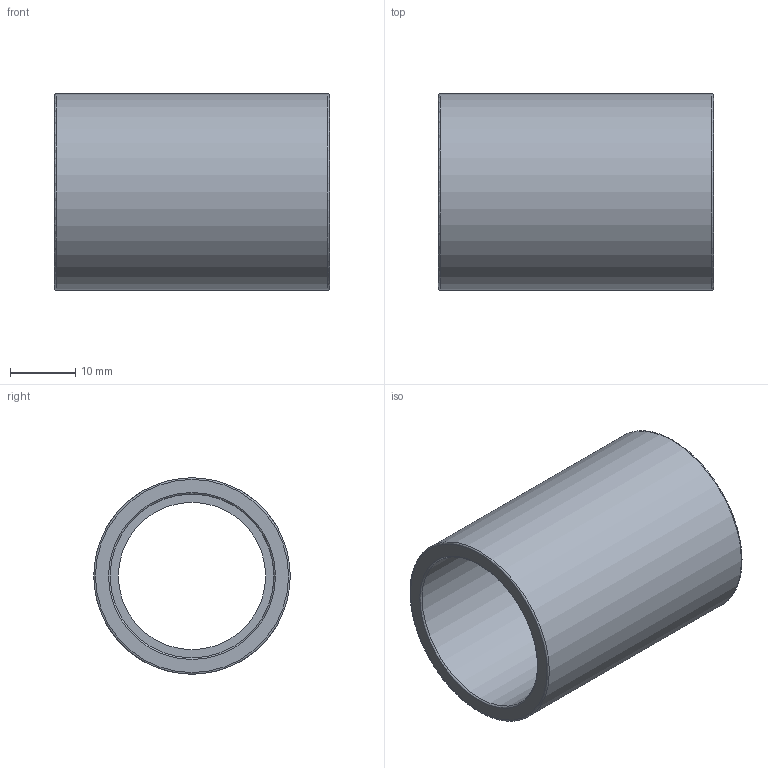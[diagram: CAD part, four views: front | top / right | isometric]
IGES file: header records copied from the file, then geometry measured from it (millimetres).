
Global section: file name: 050100025.ipt; native system: Autodesk Inventor 2015; preprocessor: unknown; author: KIM; date: 20171207.164003; units: millimetre
Bounding box: 42 x 30 x 30 mm (x, y, z)
Volume: 9439.8 mm3; surface area: 7807.1 mm2
Topology: 1 solids, 1 shells, 12 faces, 34 edges, 26 vertices
Faces by surface type: revolution 7, plane 4, cylinder 1
Full cylindrical faces by diameter (mm): 30 x1
